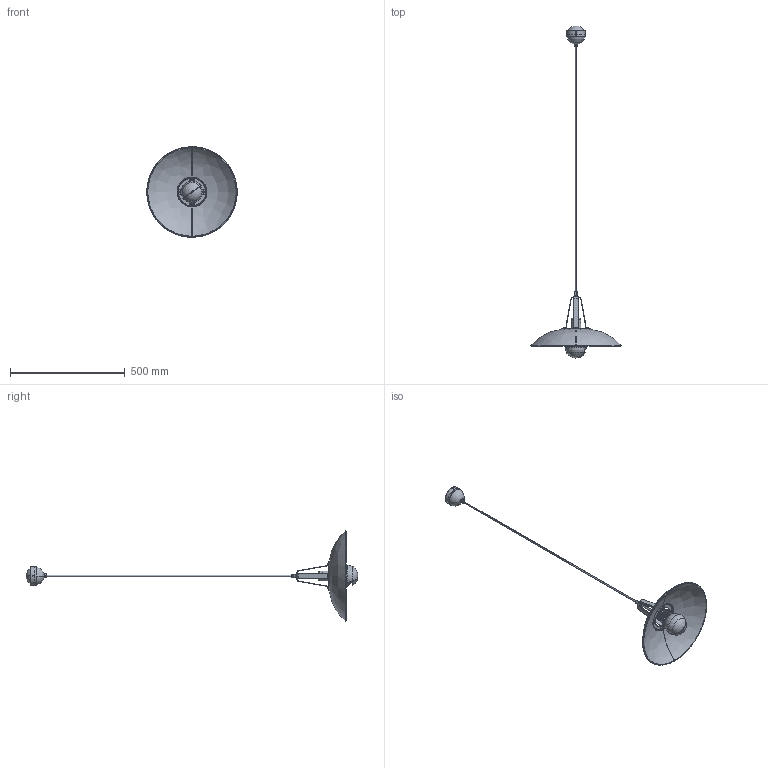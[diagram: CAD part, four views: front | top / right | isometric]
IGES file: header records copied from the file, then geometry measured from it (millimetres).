
Start section: SolidWorks IGES file using analytic representation for surfaces
Global section: file name: E:\3D lampy\Dheli\Dheli.IGS; native system: SolidWorks 2016; preprocessor: SolidWorks 2016; author: Asia; date: 161005.113318; units: millimetre
Bounding box: 393.87 x 1445.78 x 393.89 mm (x, y, z)
Surface area: 461693.7 mm2 (no closed solid volume)
Topology: 0 solids, 0 shells, 628 faces, 7797 edges, 7768 vertices
Faces by surface type: revolution 358, bspline 270
